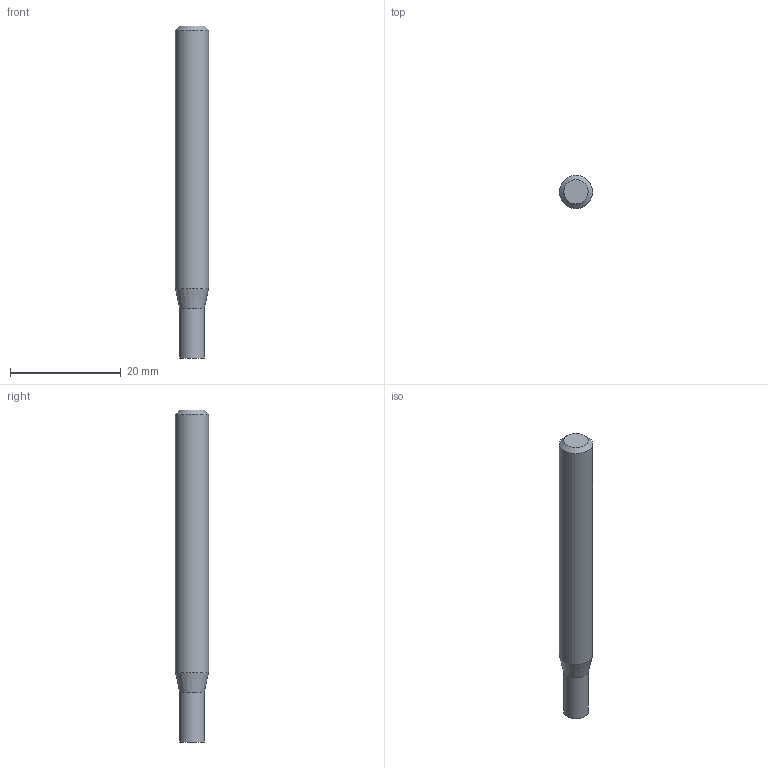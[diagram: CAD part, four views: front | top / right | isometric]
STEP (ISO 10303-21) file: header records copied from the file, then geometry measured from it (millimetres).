
FILE_DESCRIPTION((''),'2;1');
FILE_NAME('C:\Users\nsx150\AppData\Local\Temp\Mastercam 2021\AMKO7YXE3Q\TEMP.step','2024-03-15T17:55:00',(''),(''),'STEP Write','Mastercam 2021 ... CNC Software, Inc.','');
FILE_SCHEMA(('AUTOMOTIVE_DESIGN'));
Length unit declared in the file: millimetre
Products named in the file (1): None
Bounding box: 6 x 6 x 60 mm (x, y, z)
Volume: 1556.8 mm3; surface area: 1147.9 mm2
Topology: 2 solids, 2 shells, 8 faces, 10 edges, 6 vertices
Faces by surface type: plane 4, cylinder 2, cone 2
Full cylindrical faces by diameter (mm): 4.5 x1, 6 x1
Entity records: 190 total; most frequent: DIRECTION 32, CARTESIAN_POINT 22, AXIS2_PLACEMENT_3D 16, ORIENTED_EDGE 12, EDGE_LOOP 12, STYLED_ITEM 11, ADVANCED_FACE 8, VERTEX_POINT 6
